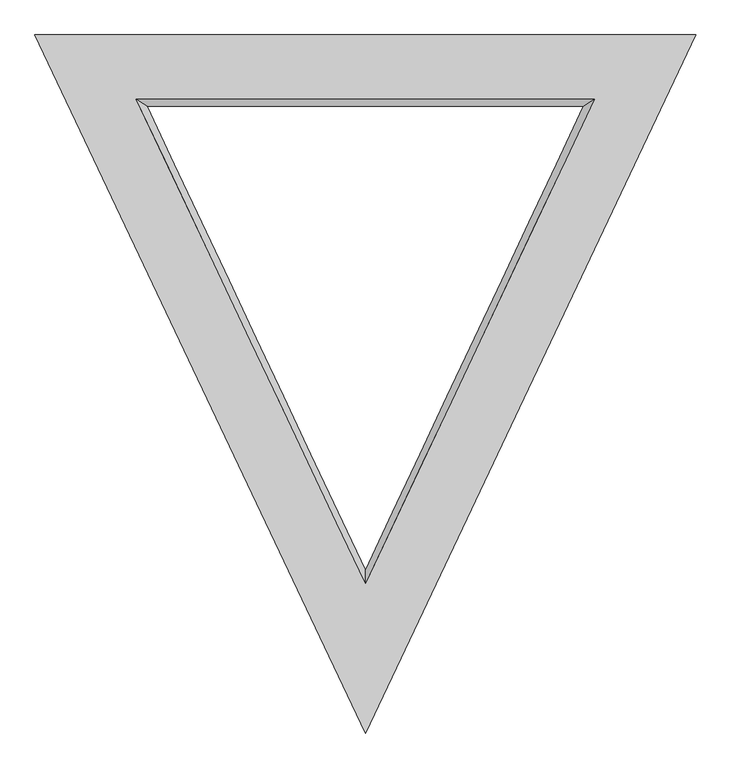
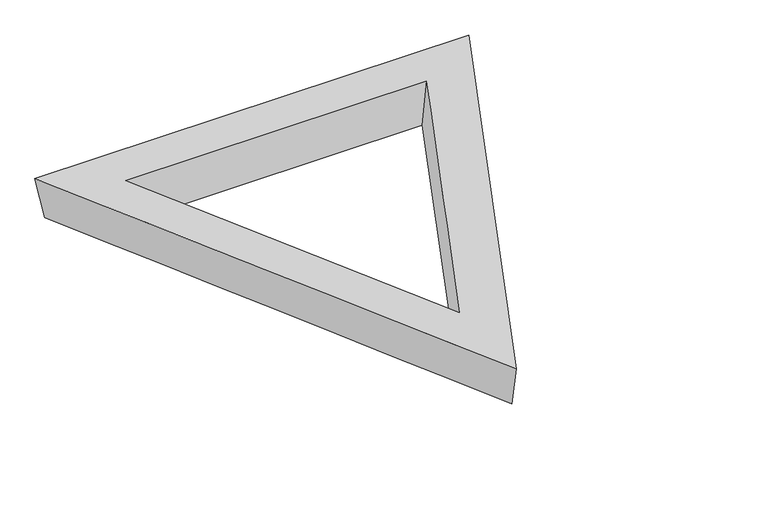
"""IFC4 building model written with IfcOpenShell, lengths in millimetres: plate geometry."""

from ifc_helpers import new_model, si_unit, frame, origin, place, context, project, spatial, source, transform, mapped, element, save
from ifc_brep_helpers import plane_surface, spline_surface, advanced_brep


def plate_5f233868(model_context):
    return source(origin(), model_context, "Body", "AdvancedBrep", [
        advanced_brep(
        [(5405.1466992, 5592.8821835, 0.0), (5371.1283582, 5615.0364926, 199.0149123), (6096.0, 4084.5477873, 199.4716329), (6096.0, 4125.0079892, 0.0), (6820.8716418, 5615.0364926, 199.0149123), (6786.8533008, 5592.8821835, 0.0), (6096.0, 3647.8356331, 0.0), (7107.0697675, 5796.0821835, 0.0), (7141.9499004, 5818.2364836, 198.9542744), (6096.0, 3609.8254815, 199.6132971), (5084.9302325, 5796.0821835, 0.0), (5050.0500996, 5818.2364836, 198.9542744)],
        [
            (0, 1),
            (1, 2),
            (2, 3),
            (3, 0),
            (2, 4),
            (4, 5),
            (5, 3),
            (0, 5),
            (4, 1),
            (6, 7),
            (7, 8),
            (8, 9),
            (9, 6),
            (7, 10),
            (10, 11),
            (11, 8),
            (9, 11),
            (10, 6),
        ],
        [
            spline_surface(1, 1, [[(5405.1466992, 5592.8821835, 0.0), (6096.0, 4125.0079892, 0.0)], [(5371.1283582, 5615.0364926, 199.0149123), (6096.0, 4084.5477873, 199.4716329)]], [2, 2], [2, 2], [0.0, 1.0], [0.0, 1.0]),
            spline_surface(1, 1, [[(6096.0, 4125.0079892, 0.0), (6786.8533008, 5592.8821835, 0.0)], [(6096.0, 4084.5477873, 199.4716329), (6820.8716418, 5615.0364926, 199.0149123)]], [2, 2], [2, 2], [0.0, 1.0], [0.0, 1.0]),
            plane_surface(frame((6096.0, 5592.8821835, 0.0), z_axis=(0.0, -0.9938609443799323, 0.1106364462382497), x_axis=(-1.0, 0.0, 6.6241655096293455e-12))),
            spline_surface(1, 1, [[(6096.0, 3647.8356331, 0.0), (6096.0, 3609.8254815, 199.6132971)], [(7107.0697675, 5796.0821835, 0.0), (7141.9499004, 5818.2364836, 198.9542744)]], [2, 2], [2, 2], [0.0, 1.0], [0.0, 1.0]),
            plane_surface(frame((6096.0, 5796.0821835, 0.0), z_axis=(0.0, 0.9938572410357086, -0.11066970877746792), x_axis=(-1.0, 0.0, 6.624111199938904e-12))),
            spline_surface(1, 1, [[(5084.9302325, 5796.0821835, 0.0), (5050.0500996, 5818.2364836, 198.9542744)], [(6096.0, 3647.8356331, 0.0), (6096.0, 3609.8254815, 199.6132971)]], [2, 2], [2, 2], [0.0, 1.0], [0.0, 1.0]),
            plane_surface(frame((6096.0, 5082.0994829, 199.1739487), z_axis=(6.624110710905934e-12, 0.00029841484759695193, 0.9999999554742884), x_axis=(0.4280396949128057, -0.9037598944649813, 0.00026969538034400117))),
            plane_surface(frame((6096.0, 5080.0, 0.0), z_axis=(-6.624070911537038e-12, 0.0, -1.0), x_axis=(-0.4258419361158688, 0.9047975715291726, 2.820878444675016e-12))),
        ],
        [
            (0, [[1, 2, 3, 4]]),
            (1, [[-3, 5, 6, 7]]),
            (2, [[-1, 8, -6, 9]]),
            (3, [[10, 11, 12, 13]]),
            (4, [[-11, 14, 15, 16]]),
            (5, [[-13, 17, -15, 18]]),
            (6, [[-12, -16, -17], [-2, -9, -5]]),
            (7, [[-10, -18, -14], [-4, -7, -8]]),
        ],
    ),
    ])


if __name__ == "__main__":
    model = new_model("IFC4")
    model_context = context("Model", 3, world=origin())
    ifc_project = project(units=[si_unit("LENGTHUNIT", "METRE", prefix="MILLI")], contexts=[model_context])
    site = spatial("IfcSite", under=ifc_project)
    building = spatial("IfcBuilding", under=site)
    placement = place(None, origin())
    plate_shape = plate_5f233868(model_context)
    element("IfcPlate", 1, ObjectType="tn_cpanel_patbase_triangle_flat_seamless_frame_02_cylinder : tn_cpanel_pattern_mullion_t8\"xh8\"", at=placement, inside=building, context=model_context, shape_type="MappedRepresentation", body=[
        mapped(plate_shape, transform((0.0, 0.0, 0.0), x_axis=(1.0, 0.0, 0.0), y_axis=(0.0, 1.0, 0.0), z_axis=(0.0, 0.0, 1.0))),
    ])
    save(model, "model.ifc")
